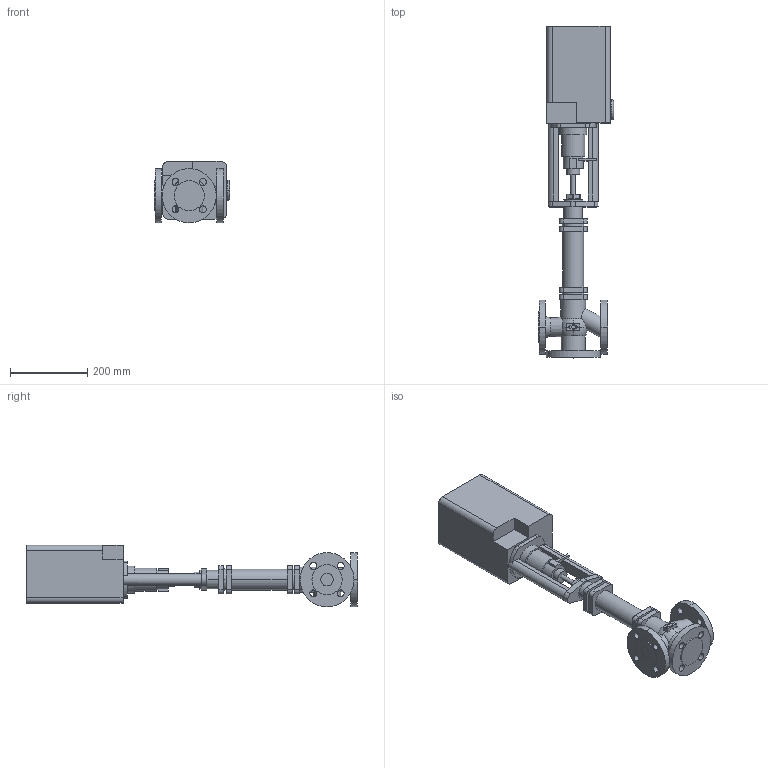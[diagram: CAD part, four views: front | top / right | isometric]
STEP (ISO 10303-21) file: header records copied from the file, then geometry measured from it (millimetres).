
FILE_DESCRIPTION(('OneSpaceDesigner STEP Export'),'2;1');
FILE_NAME('c000002435.stp','2006-09-21T11:42:50',(''),(''),'OneSpace Designer STEP processor for AP214 (Solid Model)','OneSpace Designer 13.20A 18-Aug-2005 (C) CoCreate Software GmbH','');
FILE_SCHEMA(('AUTOMOTIVE_DESIGN { 1 0 10303 214 1 1 1 1 }'));
Length unit declared in the file: millimetre
Products named in the file (2): 1; 2
Bounding box: 194.6 x 859 x 159 mm (x, y, z)
Volume: 8939674.9 mm3; surface area: 510704.6 mm2
Topology: 2 solids, 2 shells, 233 faces, 595 edges, 395 vertices
Faces by surface type: cylinder 112, plane 109, torus 8, cone 4
Entity records: 6906 total; most frequent: CARTESIAN_POINT 1457, ORIENTED_EDGE 1190, DIRECTION 1041, EDGE_CURVE 595, VERTEX_POINT 395, AXIS2_PLACEMENT_3D 363, VECTOR 315, LINE 315
